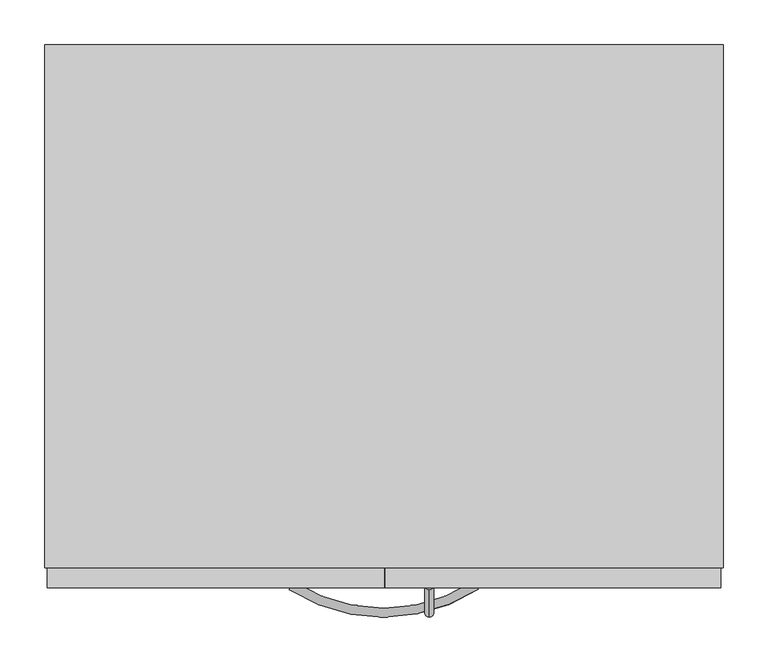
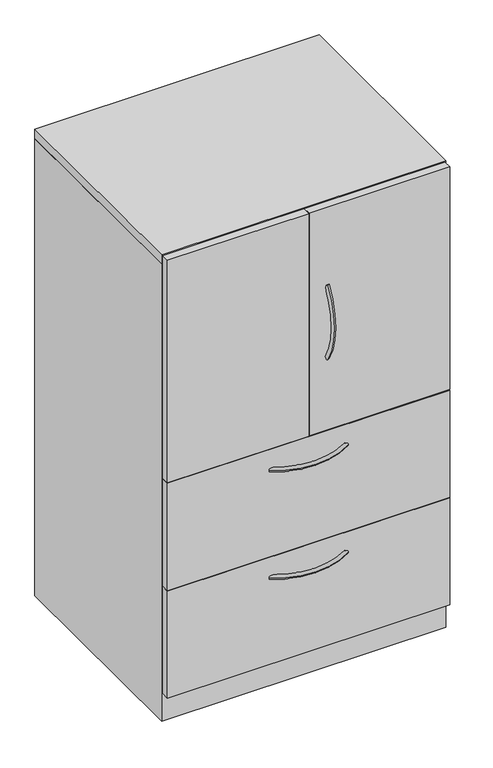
"""IFC4 building model written with IfcOpenShell, lengths in millimetres: furniture geometry, Steelcase - Universal Storage - Cabinet - Combination - Proud Steel : 52H - Hinged Doors/2 Drawers - 24D x 30W."""

from ifc_helpers import new_model, si_unit, point, frame, origin, place, context, project, spatial, polyline, circle_curve, ellipse_curve, trimmed, outline, extrude, faceted_brep, source, transform, mapped, element, save
from ifc_brep_helpers import plane_surface, revolved_surface, advanced_brep


def furniture_bfc736fa(model_context):
    return source(origin(), model_context, "Body", "SolidModel", [
        extrude(outline(polyline([(758.8225413, -479.552), (3.1725353, -479.552), (3.1725353, -457.3261219), (758.8225413, -457.3261219), (758.8225413, -479.552)])), frame((0.0, 0.0, 77.724), z_axis=(0.0, 0.0, 1.0), x_axis=(1.0, 0.0, 0.0)), (0.0, 0.0, 1.0), 303.276),
        extrude(outline(polyline([(758.8225413, -479.552), (3.1725353, -479.552), (3.1725353, -457.3261219), (758.8225413, -457.3261219), (758.8225413, -479.552)])), frame((0.0, 0.0, 382.524), z_axis=(0.0, 0.0, 1.0), x_axis=(1.0, 0.0, 0.0)), (0.0, 0.0, 1.0), 303.276),
        extrude(outline(polyline([(381.0, -479.552), (3.1725353, -479.552), (3.1725353, -457.3261219), (381.0, -457.3261219), (381.0, -479.552)])), frame((0.0, 0.0, 687.7062596), z_axis=(0.0, 0.0, 1.0), x_axis=(1.0, 0.0, 0.0)), (0.0, 0.0, 1.0), 629.92),
        extrude(outline(polyline([(758.8225413, -479.552), (382.5239992, -479.552), (382.5239992, -457.3261219), (758.8225413, -457.3261219), (758.8225413, -479.552)])), frame((0.0, 0.0, 687.7062596), z_axis=(0.0, 0.0, 1.0), x_axis=(1.0, 0.0, 0.0)), (0.0, 0.0, 1.0), 629.92),
        advanced_brep(
        [(431.7682496, -481.5705994, 1099.843666), (431.7682496, -473.0108019, 1094.3705073), (431.7682496, -481.1337636, 887.5367456), (431.7682496, -472.5965612, 893.0450825)],
        [
            (0, 1, circle_curve(frame((431.7682496, -477.2907007, 1097.1070866), z_axis=(0.0, 0.5386967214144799, 0.842499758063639), x_axis=(0.0, 0.842499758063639, -0.5386967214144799)), 5.08)),
            (1, 0, circle_curve(frame((431.7682496, -477.2907007, 1097.1070866), z_axis=(0.0, 0.5386967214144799, 0.842499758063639), x_axis=(0.0, 0.842499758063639, -0.5386967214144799)), 5.08)),
            (2, 3, circle_curve(frame((431.7682496, -476.8651624, 890.2909141), z_axis=(0.0, 0.5421591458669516, -0.8402758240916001), x_axis=(0.0, 0.8402758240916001, 0.5421591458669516)), 5.08)),
            (3, 2, circle_curve(frame((431.7682496, -476.8651624, 890.2909141), z_axis=(0.0, 0.5421591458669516, -0.8402758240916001), x_axis=(0.0, 0.8402758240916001, 0.5421591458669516)), 5.08)),
            (3, 1, circle_curve(frame((431.7682496, -316.0827352, 994.0302589), z_axis=(-1.0, 0.0, 0.0), x_axis=(0.0, -0.8424997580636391, 0.5386967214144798)), 186.2648211)),
            (0, 2, circle_curve(frame((431.7682496, -316.0827352, 994.0302589), z_axis=(1.0, 0.0, 0.0), x_axis=(0.0, -0.8424997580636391, 0.5386967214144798)), 196.4248211)),
        ],
        [
            plane_surface(frame((432.5619996, -476.6365286, 1096.6888072), z_axis=(0.0, 0.5386967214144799, 0.8424997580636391), x_axis=(1.0, 0.0, 0.0))),
            plane_surface(frame((432.5619996, -476.2127171, 890.711882), z_axis=(0.0, 0.5421591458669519, -0.8402758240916), x_axis=(1.0, 0.0, 0.0))),
            revolved_surface(trimmed(ellipse_curve(frame((431.7682496, -477.2907007, 1097.1070866), z_axis=(0.0, 0.5386967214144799, 0.842499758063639), x_axis=(0.0, 0.842499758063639, -0.5386967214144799)), 5.08, 5.08), [point((431.7682496, -481.5705994, 1099.843666))], [point((431.7682496, -473.0108019, 1094.3705073))], True, "CARTESIAN"), (432.5619996, -316.0827352, 994.0302589), (1.0, 0.0, 0.0)),
            revolved_surface(trimmed(ellipse_curve(frame((431.7682496, -477.2907007, 1097.1070866), z_axis=(0.0, 0.5386967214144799, 0.842499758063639), x_axis=(0.0, 0.842499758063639, -0.5386967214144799)), 5.08, 5.08), [point((431.7682496, -473.0108019, 1094.3705073))], [point((431.7682496, -481.5705994, 1099.843666))], True, "CARTESIAN"), (432.5619996, -316.0827352, 994.0302589), (1.0, 0.0, 0.0)),
        ],
        [
            (0, [[1, 2]]),
            (1, [[3, 4]]),
            (2, [[5, -1, 6, -4]]),
            (3, [[-6, -2, -5, -3]]),
        ],
    ),
        advanced_brep(
        [(274.4245932, -481.5705994, 323.56425), (279.8977519, -473.0108019, 323.56425), (486.7315136, -481.1337636, 323.56425), (481.2231767, -472.5965612, 323.56425)],
        [
            (0, 1, circle_curve(frame((277.1611726, -477.2907007, 323.56425), z_axis=(-0.8424997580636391, 0.5386967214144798, 0.0), x_axis=(0.5386967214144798, 0.8424997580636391, 0.0)), 5.08)),
            (1, 0, circle_curve(frame((277.1611726, -477.2907007, 323.56425), z_axis=(-0.8424997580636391, 0.5386967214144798, 0.0), x_axis=(0.5386967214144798, 0.8424997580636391, 0.0)), 5.08)),
            (2, 3, circle_curve(frame((483.9773452, -476.8651624, 323.56425), z_axis=(0.8402758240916, 0.5421591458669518, 0.0), x_axis=(-0.5421591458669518, 0.8402758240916, 0.0)), 5.08)),
            (3, 2, circle_curve(frame((483.9773452, -476.8651624, 323.56425), z_axis=(0.8402758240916, 0.5421591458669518, 0.0), x_axis=(-0.5421591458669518, 0.8402758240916, 0.0)), 5.08)),
            (3, 1, circle_curve(frame((380.2380004, -316.0827352, 323.56425), z_axis=(0.0, 0.0, -1.0), x_axis=(-0.5386967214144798, -0.8424997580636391, 0.0)), 186.2648211)),
            (0, 2, circle_curve(frame((380.2380004, -316.0827352, 323.56425), z_axis=(0.0, 0.0, 1.0), x_axis=(-0.5386967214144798, -0.8424997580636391, 0.0)), 196.4248211)),
        ],
        [
            plane_surface(frame((277.5794521, -476.6365286, 324.358), z_axis=(-0.8424997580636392, 0.5386967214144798, 0.0), x_axis=(0.0, 0.0, 1.0))),
            plane_surface(frame((483.5563772, -476.2127171, 324.358), z_axis=(0.8402758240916, 0.5421591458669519, 0.0), x_axis=(0.0, 0.0, 1.0))),
            revolved_surface(trimmed(ellipse_curve(frame((277.1611726, -477.2907007, 323.56425), z_axis=(-0.8424997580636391, 0.5386967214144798, 0.0), x_axis=(0.5386967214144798, 0.8424997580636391, 0.0)), 5.08, 5.08), [point((274.4245932, -481.5705994, 323.56425))], [point((279.8977519, -473.0108019, 323.56425))], True, "CARTESIAN"), (380.2380004, -316.0827352, 324.358), (0.0, 0.0, 1.0)),
            revolved_surface(trimmed(ellipse_curve(frame((277.1611726, -477.2907007, 323.56425), z_axis=(-0.8424997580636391, 0.5386967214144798, 0.0), x_axis=(0.5386967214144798, 0.8424997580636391, 0.0)), 5.08, 5.08), [point((279.8977519, -473.0108019, 323.56425))], [point((274.4245932, -481.5705994, 323.56425))], True, "CARTESIAN"), (380.2380004, -316.0827352, 324.358), (0.0, 0.0, 1.0)),
        ],
        [
            (0, [[1, 2]]),
            (1, [[3, 4]]),
            (2, [[5, -1, 6, -4]]),
            (3, [[-6, -2, -5, -3]]),
        ],
    ),
        advanced_brep(
        [(274.4245932, -481.5705994, 627.85625), (279.8977519, -473.0108019, 627.85625), (486.7315136, -481.1337636, 627.85625), (481.2231767, -472.5965612, 627.85625)],
        [
            (0, 1, circle_curve(frame((277.1611726, -477.2907007, 627.85625), z_axis=(-0.8424997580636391, 0.5386967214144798, 0.0), x_axis=(0.5386967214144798, 0.8424997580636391, 0.0)), 5.08)),
            (1, 0, circle_curve(frame((277.1611726, -477.2907007, 627.85625), z_axis=(-0.8424997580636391, 0.5386967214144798, 0.0), x_axis=(0.5386967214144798, 0.8424997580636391, 0.0)), 5.08)),
            (2, 3, circle_curve(frame((483.9773452, -476.8651624, 627.85625), z_axis=(0.8402758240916, 0.5421591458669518, 0.0), x_axis=(-0.5421591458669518, 0.8402758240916, 0.0)), 5.08)),
            (3, 2, circle_curve(frame((483.9773452, -476.8651624, 627.85625), z_axis=(0.8402758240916, 0.5421591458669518, 0.0), x_axis=(-0.5421591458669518, 0.8402758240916, 0.0)), 5.08)),
            (3, 1, circle_curve(frame((380.2380004, -316.0827352, 627.85625), z_axis=(0.0, 0.0, -1.0), x_axis=(-0.5386967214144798, -0.8424997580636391, 0.0)), 186.2648211)),
            (0, 2, circle_curve(frame((380.2380004, -316.0827352, 627.85625), z_axis=(0.0, 0.0, 1.0), x_axis=(-0.5386967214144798, -0.8424997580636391, 0.0)), 196.4248211)),
        ],
        [
            plane_surface(frame((277.5794521, -476.6365286, 628.65), z_axis=(-0.8424997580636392, 0.5386967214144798, 0.0), x_axis=(0.0, 0.0, 1.0))),
            plane_surface(frame((483.5563772, -476.2127171, 628.65), z_axis=(0.8402758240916, 0.5421591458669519, 0.0), x_axis=(0.0, 0.0, 1.0))),
            revolved_surface(trimmed(ellipse_curve(frame((277.1611726, -477.2907007, 627.85625), z_axis=(-0.8424997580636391, 0.5386967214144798, 0.0), x_axis=(0.5386967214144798, 0.8424997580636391, 0.0)), 5.08, 5.08), [point((274.4245932, -481.5705994, 627.85625))], [point((279.8977519, -473.0108019, 627.85625))], True, "CARTESIAN"), (380.2380004, -316.0827352, 628.65), (0.0, 0.0, 1.0)),
            revolved_surface(trimmed(ellipse_curve(frame((277.1611726, -477.2907007, 627.85625), z_axis=(-0.8424997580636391, 0.5386967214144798, 0.0), x_axis=(0.5386967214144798, 0.8424997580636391, 0.0)), 5.08, 5.08), [point((279.8977519, -473.0108019, 627.85625))], [point((274.4245932, -481.5705994, 627.85625))], True, "CARTESIAN"), (380.2380004, -316.0827352, 628.65), (0.0, 0.0, 1.0)),
        ],
        [
            (0, [[1, 2]]),
            (1, [[3, 4]]),
            (2, [[5, -1, 6, -4]]),
            (3, [[-6, -2, -5, -3]]),
        ],
    ),
        faceted_brep([(25.4000008, -457.3261219, 76.2), (736.6000242, -457.3261219, 76.2), (736.6000242, 104.6479992, 76.2), (25.4000008, 104.6479992, 76.2), (762.0, 130.048, 0.0), (762.0, -457.3261219, 0.0), (0.0, -457.3261219, 0.0), (0.0, 130.048, 0.0), (0.0, 130.048, 1293.876), (762.0, 130.048, 1293.876), (0.0, -457.3261219, 1293.876), (762.0, -457.3261219, 1293.876), (736.6000242, -457.3261219, 1293.876), (25.4000008, -457.3261219, 1293.876), (736.6000242, 104.6479992, 1293.876), (25.4000008, 104.6479992, 1293.876)], [[[0, 1, 2, 3]], [[4, 5, 6, 7]], [[4, 7, 8, 9]], [[8, 7, 6, 10]], [[10, 6, 5, 11, 12, 1, 0, 13]], [[11, 5, 4, 9]], [[14, 12, 11, 9, 8, 10, 13, 15]], [[12, 14, 2, 1]], [[15, 13, 0, 3]], [[14, 15, 3, 2]]]),
        extrude(outline(polyline([(762.0, 130.048), (762.0, -457.3261219), (0.0, -457.3261219), (0.0, 130.048), (762.0, 130.048)])), frame((0.0, 0.0, 1295.3999516), z_axis=(0.0, 0.0, 1.0), x_axis=(1.0, 0.0, 0.0)), (0.0, 0.0, 1.0), 25.4000484),
    ])


if __name__ == "__main__":
    model = new_model("IFC4")
    model_context = context("Model", 3, world=origin())
    ifc_project = project(units=[si_unit("LENGTHUNIT", "METRE", prefix="MILLI")], contexts=[model_context])
    site = spatial("IfcSite", under=ifc_project)
    building = spatial("IfcBuilding", under=site)
    placement = place(None, origin())
    furniture_shape = furniture_bfc736fa(model_context)
    element("IfcFurniture", 1, ObjectType="Steelcase - Universal Storage - Cabinet - Combination - Proud Steel : 52H - Hinged Doors/2 Drawers - 24D x 30W", at=placement, inside=building, context=model_context, shape_type="MappedRepresentation", body=[
        mapped(furniture_shape, transform((0.0, 0.0, 0.0), x_axis=(1.0, 0.0, 0.0), y_axis=(0.0, 1.0, 0.0), z_axis=(0.0, 0.0, 1.0))),
    ])
    save(model, "model.ifc")
